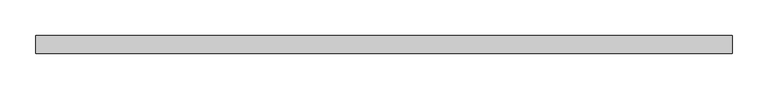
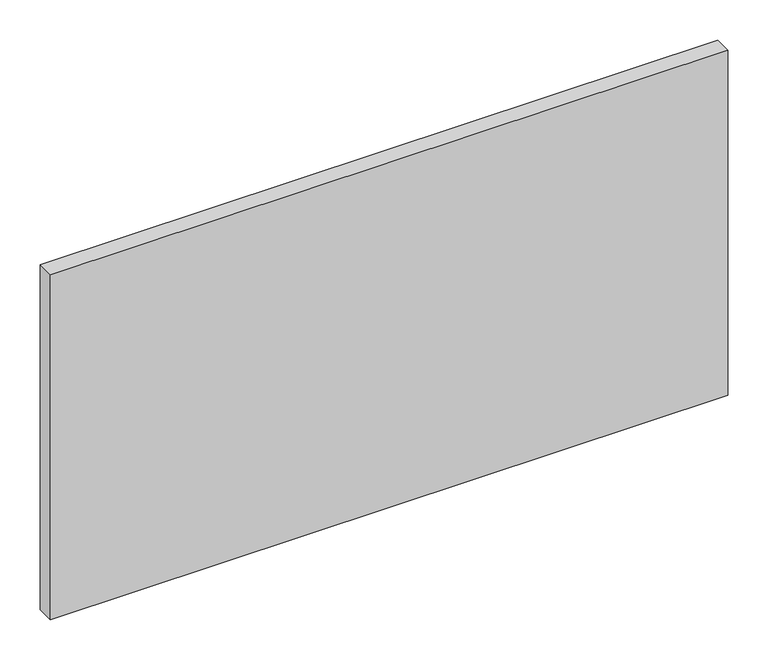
"""IFC4 building model written with IfcOpenShell, lengths in millimetres: plate geometry, 系统嵌板 : 玻璃."""

from ifc_helpers import new_model, si_unit, origin, origin_with_axes, place, context, project, spatial, polyline, outline, extrude, source, transform, mapped, element, save


def plate_136095a1(model_context):
    return source(origin(), model_context, "Body", "SweptSolid", [
        extrude(outline(polyline([(487.5, -12.5), (-487.5, -12.5), (-487.5, 12.5), (487.5, 12.5), (487.5, -12.5)])), origin_with_axes(), (0.0, 0.0, 1.0), 525.0),
    ])


if __name__ == "__main__":
    model = new_model("IFC4")
    model_context = context("Model", 3, world=origin())
    ifc_project = project(units=[si_unit("LENGTHUNIT", "METRE", prefix="MILLI")], contexts=[model_context])
    site = spatial("IfcSite", under=ifc_project)
    building = spatial("IfcBuilding", under=site)
    placement = place(None, origin())
    plate_shape = plate_136095a1(model_context)
    element("IfcPlate", 1, ObjectType="系统嵌板 : 玻璃", at=placement, inside=building, context=model_context, shape_type="MappedRepresentation", body=[
        mapped(plate_shape, transform((0.0, 0.0, 0.0), x_axis=(1.0, 0.0, 0.0), y_axis=(0.0, 1.0, 0.0), z_axis=(0.0, 0.0, 1.0))),
    ])
    save(model, "model.ifc")
